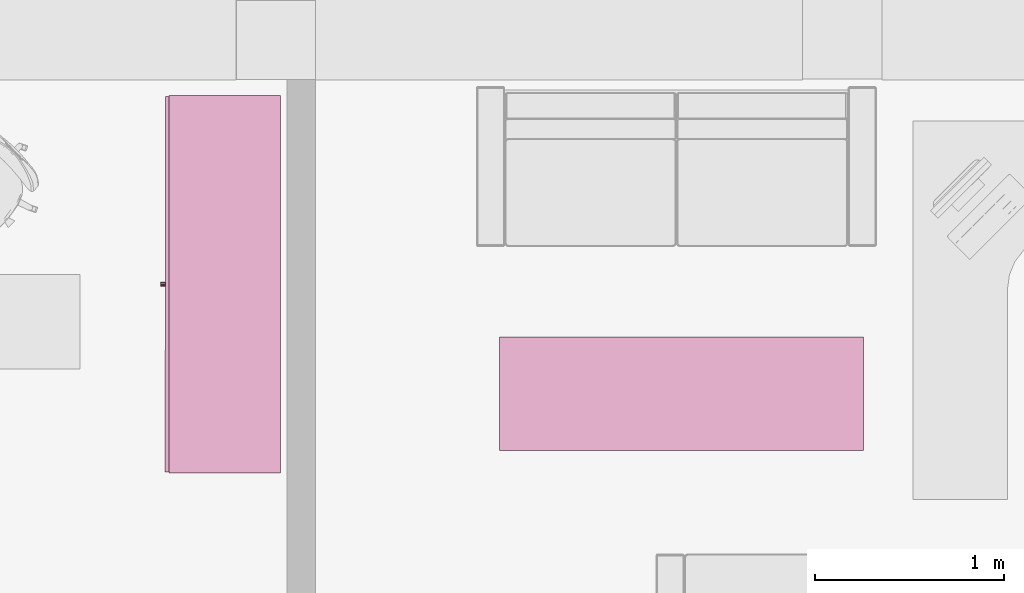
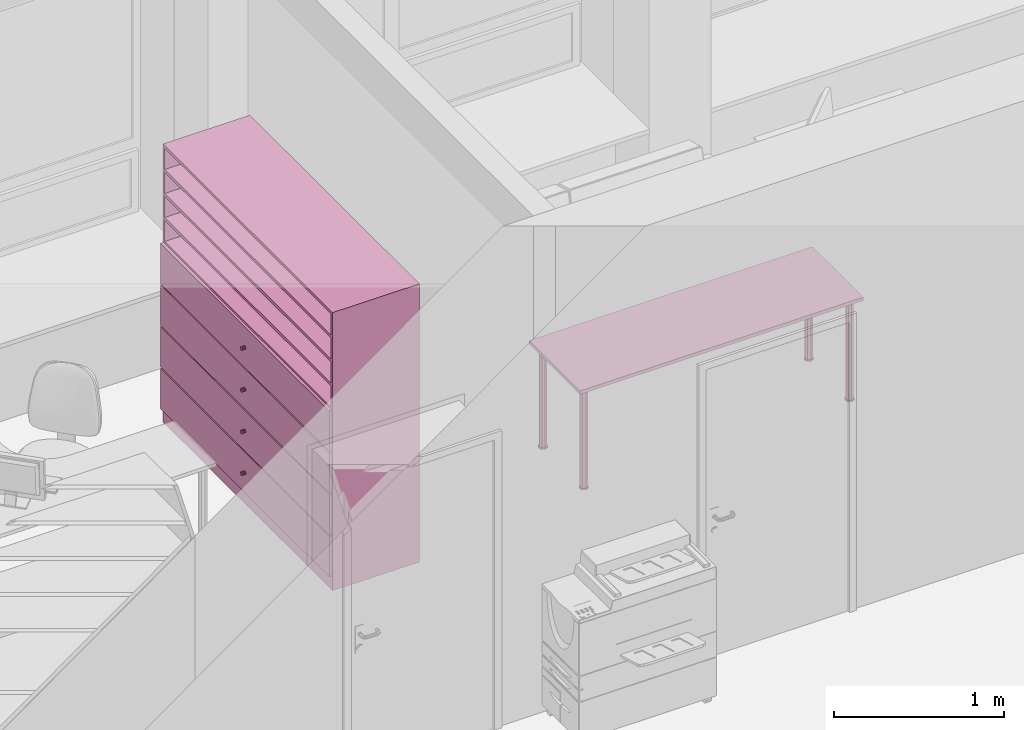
# One storey, part 177 of 194: 2 furnishings.
"""IFC2X3 building model written with IfcOpenShell, lengths in millimetres."""

import ifcopenshell
import ifcopenshell.guid

model = None  # the IFC model being written
_history = None  # IfcOwnerHistory: only IFC2X3 demands one
_inside = {}  # id of a spatial element -> (the spatial element, [elements in it])
_under = {}  # id of a project, library or spatial element -> (it, [spatial elements below it])
_declared = {}  # id of a project -> (the project, [libraries it declares])
_typed = {}  # id of a type object -> (the type object, [elements of that type])
_made_of = {}  # id of a material, layer set ... -> (it, [elements and type objects made of it])


def new_model(schema):
    """Start an empty IFC model of exactly this schema.

    Asked for "IFC4X3", IfcOpenShell would pick the latest addendum, in which some entities
    have other attributes; the version numbers below select the first issue.
    IFC2X3 requires an IfcOwnerHistory on every rooted entity: one is made here for all.
    """
    global model, _history
    if schema == "IFC4X3":
        model = ifcopenshell.file(schema_version=(4, 3, 0, 0))
    else:
        model = ifcopenshell.file(schema=schema)
    _inside.clear()
    _under.clear()
    _declared.clear()
    _typed.clear()
    _made_of.clear()
    _history = None
    if model.schema == "IFC2X3":
        org = make("IfcOrganization", Name="unknown")
        user = make(
            "IfcPersonAndOrganization",
            ThePerson=make("IfcPerson", FamilyName="unknown"),
            TheOrganization=org,
        )
        app = make(
            "IfcApplication",
            ApplicationDeveloper=org,
            Version="unknown",
            ApplicationFullName="unknown",
            ApplicationIdentifier="unknown",
        )
        _history = make(
            "IfcOwnerHistory",
            OwningUser=user,
            OwningApplication=app,
            ChangeAction="ADDED",
            CreationDate=0,
        )
    return model


def make(cls, **values):
    """One entity of the class cls with the attributes given. An attribute that is None is left unset."""
    return model.create_entity(
        cls, **{name: value for name, value in values.items() if value is not None}
    )


def entity(cls, *values):
    """Any entity or typed value of the class cls, its attributes in the order of the schema. None: left unset."""
    e = model.create_entity(cls)
    for i, value in enumerate(values):
        if value is not None:
            e[i] = value
    return e


def rooted(cls, **values):
    """An entity with a GlobalId (a new one), such as an element, a storey or a relation."""
    return make(cls, GlobalId=ifcopenshell.guid.new(), OwnerHistory=_history, **values)


def si_unit(unit_type, name, prefix=None):
    """IfcSIUnit, for example si_unit("LENGTHUNIT", "METRE", prefix="MILLI")."""
    return make("IfcSIUnit", UnitType=unit_type, Prefix=prefix, Name=name)


def converted_unit(unit_type, name, factor, base, dimensions=None, offset=None):
    """IfcConversionBasedUnit, such as the inch: factor (a typed value) times the base unit."""
    return make(
        "IfcConversionBasedUnit"
        if offset is None
        else "IfcConversionBasedUnitWithOffset",
        ConversionOffset=offset,
        Dimensions=None
        if dimensions is None
        else entity("IfcDimensionalExponents", *dimensions),
        UnitType=unit_type,
        Name=name,
        ConversionFactor=make(
            "IfcMeasureWithUnit", ValueComponent=factor, UnitComponent=base
        ),
    )


def derived_unit(unit_type, elements):
    """IfcDerivedUnit: a product of units, each with its exponent."""
    return make(
        "IfcDerivedUnit",
        Elements=[
            make("IfcDerivedUnitElement", Unit=unit, Exponent=power)
            for unit, power in elements
        ],
        UnitType=unit_type,
    )


def money_unit(currency):
    """IfcMonetaryUnit."""
    return make("IfcMonetaryUnit", Currency=currency)


def assignment(units):
    """IfcUnitAssignment: the units of a project."""
    return None if units is None else make("IfcUnitAssignment", Units=units)


def point(xyz):
    """IfcCartesianPoint."""
    return None if xyz is None else make("IfcCartesianPoint", Coordinates=xyz)


def direction(xyz):
    """IfcDirection."""
    return None if xyz is None else make("IfcDirection", DirectionRatios=xyz)


def frame(location, z_axis=None, x_axis=None):
    """IfcAxis2Placement3D, a coordinate frame: its origin and axes. An axis left out is left unset."""
    return make(
        "IfcAxis2Placement3D",
        Location=point(location),
        Axis=direction(z_axis),
        RefDirection=direction(x_axis),
    )


def origin_with_axes():
    """The frame at (0, 0, 0) with the z axis (0, 0, 1) and the x axis (1, 0, 0) written out."""
    return frame((0.0, 0.0, 0.0), z_axis=(0.0, 0.0, 1.0), x_axis=(1.0, 0.0, 0.0))


def place(relative_to, where):
    """IfcLocalPlacement: puts the frame where relative to a parent placement (None: the world)."""
    return make(
        "IfcLocalPlacement", PlacementRelTo=relative_to, RelativePlacement=where
    )


def context(
    kind, dimensions, precision=None, world=None, true_north=None, identifier=None
):
    """IfcGeometricRepresentationContext, for example the 3D "Model" context."""
    return make(
        "IfcGeometricRepresentationContext",
        ContextIdentifier=identifier,
        ContextType=kind,
        CoordinateSpaceDimension=dimensions,
        Precision=precision,
        WorldCoordinateSystem=world,
        TrueNorth=true_north,
    )


def subcontext(parent, identifier, kind, view, scale=None):
    """IfcGeometricRepresentationSubContext, for example "Body" below "Model"."""
    return make(
        "IfcGeometricRepresentationSubContext",
        ContextIdentifier=identifier,
        ContextType=kind,
        ParentContext=parent,
        TargetScale=scale,
        TargetView=view,
    )


def project(units=None, contexts=None):
    """IfcProject with its units and contexts."""
    return rooted(
        "IfcProject",
        Name="project",
        RepresentationContexts=contexts,
        UnitsInContext=assignment(units),
    )


def spatial(cls, under=None, at=None, **own):
    """A site, building, storey or space (cls), placed at a placement, below another one or the project."""
    s = rooted(cls, ObjectPlacement=at, **own)
    if under is not None:
        _under.setdefault(under.id(), (under, []))[1].append(s)
    return s


def faces_of(points, faces, orient=None, outer=None):
    """IfcFace entities. A face is a list of loops; a loop is a list of indices into points, from 0.

    orient and outer hold one flag for each loop. By default every Orientation is true, the
    first loop of a face is its IfcFaceOuterBound and the others are IfcFaceBound.
    """
    made = []
    for i, loops in enumerate(faces):
        bounds = []
        for j, loop in enumerate(loops):
            is_outer = j == 0 if outer is None else outer[i][j]
            bounds.append(
                make(
                    "IfcFaceOuterBound" if is_outer else "IfcFaceBound",
                    Bound=make("IfcPolyLoop", Polygon=[points[k] for k in loop]),
                    Orientation=True if orient is None else orient[i][j],
                )
            )
        made.append(make("IfcFace", Bounds=bounds))
    return made


def faceted_brep(points, faces, orient=None, outer=None, voids=None):
    """IfcFacetedBrep: a solid bounded by flat faces; with voids (closed shells), ...WithVoids."""
    shared = [point(p) for p in points]
    hull = make("IfcClosedShell", CfsFaces=faces_of(shared, faces, orient, outer))
    if voids is None:
        return make("IfcFacetedBrep", Outer=hull)
    return make(
        "IfcFacetedBrepWithVoids",
        Outer=hull,
        Voids=[
            make(cls, CfsFaces=faces_of(shared, fs, o, b)) for cls, fs, o, b in voids
        ],
    )


def shape(context_of_items, identifier, shape_type, items):
    """IfcShapeRepresentation: the items that make up one representation, for example the "Body"."""
    return make(
        "IfcShapeRepresentation",
        ContextOfItems=context_of_items,
        RepresentationIdentifier=identifier,
        RepresentationType=shape_type,
        Items=items,
    )


def made_of(thing, what):
    """Note that an element or type object is made of a material, layer set ...; save() writes the relation."""
    if what is not None:
        _made_of.setdefault(what.id(), (what, []))[1].append(thing)
    return thing


def type_object(cls, material=None, **own):
    """A type object (cls), such as IfcWallType, which elements share."""
    return made_of(rooted(cls, **own), material)


def element(
    cls,
    number,
    at=None,
    inside=None,
    cuts=None,
    type_object=None,
    material=None,
    context=None,
    identifier="Body",
    shape_type=None,
    held_by="IfcProductDefinitionShape",
    body=None,
    shapes=None,
    **own,
):
    """One element of the class cls, such as IfcWall. Its Tag is "e" and its number.

    at: its placement. inside: the storey or other place that contains it. cuts: it is an
    opening in that element (IfcRelVoidsElement). A single representation is given by context,
    identifier, shape_type and body (its items); several are given by shapes. held_by: the class
    of the entity that holds the representations. save() writes the other relations.
    """
    e = rooted(cls, Tag="e%d" % number, ObjectPlacement=at, **own)
    if body is not None:
        shapes = [shape(context, identifier, shape_type, body)]
    if shapes is not None:
        e.Representation = make(held_by, Representations=shapes)
    if inside is not None:
        _inside.setdefault(inside.id(), (inside, []))[1].append(e)
    if cuts is not None:
        rooted(
            "IfcRelVoidsElement", RelatingBuildingElement=cuts, RelatedOpeningElement=e
        )
    if type_object is not None:
        _typed.setdefault(type_object.id(), (type_object, []))[1].append(e)
    return made_of(e, material)


def aggregate(whole, parts):
    """IfcRelAggregates: a whole, such as a stair, and the parts it consists of."""
    return rooted("IfcRelAggregates", RelatingObject=whole, RelatedObjects=parts)


def save(model, path):
    """Write the relations noted so far, then the file.

    IfcRelAggregates (storeys below a building ...), IfcRelContainedInSpatialStructure (elements
    in a storey), IfcRelDefinesByType, IfcRelAssociatesMaterial and IfcRelDeclares: one each for
    every whole, place, type object, material and project.
    """
    for whole, parts in _under.values():
        aggregate(whole, parts)
    for where, things in _inside.values():
        rooted(
            "IfcRelContainedInSpatialStructure",
            RelatedElements=things,
            RelatingStructure=where,
        )
    for kind, things in _typed.values():
        rooted("IfcRelDefinesByType", RelatedObjects=things, RelatingType=kind)
    for what, things in _made_of.values():
        rooted("IfcRelAssociatesMaterial", RelatedObjects=things, RelatingMaterial=what)
    for by, libraries in _declared.values():
        rooted("IfcRelDeclares", RelatingContext=by, RelatedDefinitions=libraries)
    model.write(path)


model = new_model("IFC2X3")

# Units and contexts
model_context = context("Model", 3, precision=1e-05, world=origin_with_axes(), true_north=direction((0.0, 1.0)))
body_context = subcontext(model_context, "Body", "Model", "MODEL_VIEW")
ifc_project = project(units=[si_unit("LENGTHUNIT", "METRE", prefix="MILLI"), si_unit("AREAUNIT", "SQUARE_METRE"), si_unit("VOLUMEUNIT", "CUBIC_METRE"), converted_unit("PLANEANGLEUNIT", "DEGREE", entity("IfcPlaneAngleMeasure", 0.0174532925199), si_unit("PLANEANGLEUNIT", "RADIAN"), dimensions=[0, 0, 0, 0, 0, 0, 0]), si_unit("SOLIDANGLEUNIT", "STERADIAN"), money_unit("EUR"), converted_unit("TIMEUNIT", "Year", entity("IfcTimeMeasure", 31556926.0), si_unit("TIMEUNIT", "SECOND"), dimensions=[0, 0, 1, 0, 0, 0, 0]), si_unit("MASSUNIT", "GRAM", prefix="KILO"), si_unit("THERMODYNAMICTEMPERATUREUNIT", "DEGREE_CELSIUS"), si_unit("LUMINOUSINTENSITYUNIT", "LUMEN"), si_unit("ENERGYUNIT", "JOULE", prefix="MEGA"), derived_unit("THERMALCONDUCTANCEUNIT", [(si_unit("POWERUNIT", "WATT"), 1), (si_unit("LENGTHUNIT", "METRE"), -1), (si_unit("THERMODYNAMICTEMPERATUREUNIT", "KELVIN"), -1)]), derived_unit("SPECIFICHEATCAPACITYUNIT", [(si_unit("ENERGYUNIT", "JOULE"), 1), (si_unit("MASSUNIT", "GRAM", prefix="KILO"), -1), (si_unit("THERMODYNAMICTEMPERATUREUNIT", "KELVIN"), -1)]), derived_unit("MASSDENSITYUNIT", [(si_unit("MASSUNIT", "GRAM", prefix="KILO"), 1), (si_unit("VOLUMEUNIT", "CUBIC_METRE"), -1)])], contexts=[model_context])

# Site, building, storey
site_placement = place(None, origin_with_axes())
site = spatial("IfcSite", under=ifc_project, at=site_placement, Name="Site", CompositionType="ELEMENT")
building_placement = place(site_placement, origin_with_axes())
building = spatial("IfcBuilding", under=site, at=building_placement, Name="Building", CompositionType="ELEMENT")
storey_placement = place(building_placement, frame((0.0, 0.0, 3000.0), z_axis=(0.0, 0.0, 1.0), x_axis=(1.0, 0.0, 0.0)))
storey = spatial("IfcBuildingStorey", under=building, at=storey_placement, Name="2 KORRUS", CompositionType="ELEMENT", Elevation=3000.0)

# Furnishings
furnishing_element_type_1 = type_object("IfcFurnishingElementType", Name="Model Element 93")
furnishing_1_placement = place(storey_placement, frame((6366.61244023, 71002.9296491, 0.0), z_axis=(0.0, 0.0, 1.0), x_axis=(-0.00064265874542, -0.999999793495, 0.0)))
element("IfcFurnishingElement", 1, at=furnishing_1_placement, inside=storey, type_object=furnishing_element_type_1, Name="FU - 001", context=body_context, shape_type="Brep", body=[
    faceted_brep([(2000.0, 19.0, 0.0), (0.0, 19.0, 0.0), (0.0, 610.502355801, 0.0), (2000.0, 610.502355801, 0.0), (2000.0, 19.0, 100.0), (0.0, 19.0, 100.0), (0.0, 610.502355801, 100.0), (2000.0, 610.502355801, 100.0)], [[[0, 1, 2, 3]], [[1, 0, 4, 5]], [[2, 1, 5, 6]], [[3, 2, 6, 7]], [[0, 3, 7, 4]], [[5, 4, 7, 6]]]),
    faceted_brep([(19.0, 610.502355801, 119.0), (19.0, 591.502355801, 119.0), (19.0, 591.502355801, 1981.0), (19.0, 610.502355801, 1981.0), (1981.0, 610.502355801, 119.0), (1981.0, 591.502355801, 119.0), (1981.0, 591.502355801, 1981.0), (1981.0, 610.502355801, 1981.0)], [[[0, 1, 2, 3]], [[0, 4, 5, 1]], [[1, 5, 6, 2]], [[3, 2, 6, 7]], [[4, 0, 3, 7]], [[5, 4, 7, 6]]]),
    faceted_brep([(2000.0, 19.0, 100.0), (1981.0, 19.0, 100.0), (1981.0, 610.502355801, 100.0), (2000.0, 610.502355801, 100.0), (2000.0, 19.0, 2000.0), (1981.0, 19.0, 2000.0), (1981.0, 610.502355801, 2000.0), (2000.0, 610.502355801, 2000.0)], [[[0, 1, 2, 3]], [[1, 0, 4, 5]], [[2, 1, 5, 6]], [[3, 2, 6, 7]], [[0, 3, 7, 4]], [[5, 4, 7, 6]]]),
    faceted_brep([(19.0, 19.0, 100.0), (0.0, 19.0, 100.0), (0.0, 610.502355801, 100.0), (19.0, 610.502355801, 100.0), (19.0, 19.0, 2000.0), (0.0, 19.0, 2000.0), (0.0, 610.502355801, 2000.0), (19.0, 610.502355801, 2000.0)], [[[0, 1, 2, 3]], [[1, 0, 4, 5]], [[2, 1, 5, 6]], [[3, 2, 6, 7]], [[0, 3, 7, 4]], [[5, 4, 7, 6]]]),
    faceted_brep([(1981.0, 19.0, 100.0), (19.0, 19.0, 100.0), (19.0, 610.502355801, 100.0), (1981.0, 610.502355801, 100.0), (1981.0, 19.0, 119.0), (19.0, 19.0, 119.0), (19.0, 610.502355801, 119.0), (1981.0, 610.502355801, 119.0)], [[[0, 1, 2, 3]], [[1, 0, 4, 5]], [[2, 1, 5, 6]], [[3, 2, 6, 7]], [[0, 3, 7, 4]], [[5, 4, 7, 6]]]),
    faceted_brep([(1981.0, 19.0, 1981.0), (19.0, 19.0, 1981.0), (19.0, 610.502355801, 1981.0), (1981.0, 610.502355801, 1981.0), (1981.0, 19.0, 2000.0), (19.0, 19.0, 2000.0), (19.0, 610.502355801, 2000.0), (1981.0, 610.502355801, 2000.0)], [[[0, 1, 2, 3]], [[1, 0, 4, 5]], [[2, 1, 5, 6]], [[3, 2, 6, 7]], [[0, 3, 7, 4]], [[5, 4, 7, 6]]]),
    faceted_brep([(5.0, 19.0, 105.0), (1995.0, 19.0, 105.0), (1995.0, 0.0, 105.0), (5.0, 0.0, 105.0), (5.0, 19.0, 395.0), (1995.0, 19.0, 395.0), (1995.0, 0.0, 395.0), (5.0, 0.0, 395.0)], [[[0, 1, 2, 3]], [[0, 4, 5, 1]], [[1, 5, 6, 2]], [[3, 2, 6, 7]], [[4, 0, 3, 7]], [[5, 4, 7, 6]]]),
    faceted_brep([(1010.39230485, 0.0, 244.0), (1006.0, 0.0, 239.607695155), (1000.0, 0.0, 238.0), (994.0, 0.0, 239.607695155), (989.607695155, 0.0, 244.0), (988.0, 0.0, 250.0), (989.607695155, 0.0, 256.0), (994.0, 0.0, 260.392304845), (1000.0, 0.0, 262.0), (1006.0, 0.0, 260.392304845), (1010.39230485, 0.0, 256.0), (1012.0, 0.0, 250.0), (1010.39230485, -25.0, 244.0), (1006.0, -25.0, 239.607695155), (1000.0, -25.0, 238.0), (994.0, -25.0, 239.607695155), (989.607695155, -25.0, 244.0), (988.0, -25.0, 250.0), (989.607695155, -25.0, 256.0), (994.0, -25.0, 260.392304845), (1000.0, -25.0, 262.0), (1006.0, -25.0, 260.392304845), (1010.39230485, -25.0, 256.0), (1012.0, -25.0, 250.0)], [[[0, 1, 2, 3, 4, 5, 6, 7, 8, 9, 10, 11]], [[1, 0, 12, 13]], [[2, 1, 13, 14]], [[3, 2, 14, 15]], [[4, 3, 15, 16]], [[5, 4, 16, 17]], [[6, 5, 17, 18]], [[7, 6, 18, 19]], [[8, 7, 19, 20]], [[9, 8, 20, 21]], [[10, 9, 21, 22]], [[11, 10, 22, 23]], [[0, 11, 23, 12]], [[12, 23, 22, 21, 20, 19, 18, 17, 16, 15, 14, 13]]]),
    faceted_brep([(5.0, 19.0, 405.0), (1995.0, 19.0, 405.0), (1995.0, 0.0, 405.0), (5.0, 0.0, 405.0), (5.0, 19.0, 695.0), (1995.0, 19.0, 695.0), (1995.0, 0.0, 695.0), (5.0, 0.0, 695.0)], [[[0, 1, 2, 3]], [[0, 4, 5, 1]], [[1, 5, 6, 2]], [[3, 2, 6, 7]], [[4, 0, 3, 7]], [[5, 4, 7, 6]]]),
    faceted_brep([(1010.39230485, 0.0, 544.0), (1006.0, 0.0, 539.607695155), (1000.0, 0.0, 538.0), (994.0, 0.0, 539.607695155), (989.607695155, 0.0, 544.0), (988.0, 0.0, 550.0), (989.607695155, 0.0, 556.0), (994.0, 0.0, 560.392304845), (1000.0, 0.0, 562.0), (1006.0, 0.0, 560.392304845), (1010.39230485, 0.0, 556.0), (1012.0, 0.0, 550.0), (1010.39230485, -25.0, 544.0), (1006.0, -25.0, 539.607695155), (1000.0, -25.0, 538.0), (994.0, -25.0, 539.607695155), (989.607695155, -25.0, 544.0), (988.0, -25.0, 550.0), (989.607695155, -25.0, 556.0), (994.0, -25.0, 560.392304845), (1000.0, -25.0, 562.0), (1006.0, -25.0, 560.392304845), (1010.39230485, -25.0, 556.0), (1012.0, -25.0, 550.0)], [[[0, 1, 2, 3, 4, 5, 6, 7, 8, 9, 10, 11]], [[1, 0, 12, 13]], [[2, 1, 13, 14]], [[3, 2, 14, 15]], [[4, 3, 15, 16]], [[5, 4, 16, 17]], [[6, 5, 17, 18]], [[7, 6, 18, 19]], [[8, 7, 19, 20]], [[9, 8, 20, 21]], [[10, 9, 21, 22]], [[11, 10, 22, 23]], [[0, 11, 23, 12]], [[12, 23, 22, 21, 20, 19, 18, 17, 16, 15, 14, 13]]]),
    faceted_brep([(5.0, 19.0, 705.0), (1995.0, 19.0, 705.0), (1995.0, 0.0, 705.0), (5.0, 0.0, 705.0), (5.0, 19.0, 995.0), (1995.0, 19.0, 995.0), (1995.0, 0.0, 995.0), (5.0, 0.0, 995.0)], [[[0, 1, 2, 3]], [[0, 4, 5, 1]], [[1, 5, 6, 2]], [[3, 2, 6, 7]], [[4, 0, 3, 7]], [[5, 4, 7, 6]]]),
    faceted_brep([(1010.39230485, 0.0, 844.0), (1006.0, 0.0, 839.607695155), (1000.0, 0.0, 838.0), (994.0, 0.0, 839.607695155), (989.607695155, 0.0, 844.0), (988.0, 0.0, 850.0), (989.607695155, 0.0, 856.0), (994.0, 0.0, 860.392304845), (1000.0, 0.0, 862.0), (1006.0, 0.0, 860.392304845), (1010.39230485, 0.0, 856.0), (1012.0, 0.0, 850.0), (1010.39230485, -25.0, 844.0), (1006.0, -25.0, 839.607695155), (1000.0, -25.0, 838.0), (994.0, -25.0, 839.607695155), (989.607695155, -25.0, 844.0), (988.0, -25.0, 850.0), (989.607695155, -25.0, 856.0), (994.0, -25.0, 860.392304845), (1000.0, -25.0, 862.0), (1006.0, -25.0, 860.392304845), (1010.39230485, -25.0, 856.0), (1012.0, -25.0, 850.0)], [[[0, 1, 2, 3, 4, 5, 6, 7, 8, 9, 10, 11]], [[1, 0, 12, 13]], [[2, 1, 13, 14]], [[3, 2, 14, 15]], [[4, 3, 15, 16]], [[5, 4, 16, 17]], [[6, 5, 17, 18]], [[7, 6, 18, 19]], [[8, 7, 19, 20]], [[9, 8, 20, 21]], [[10, 9, 21, 22]], [[11, 10, 22, 23]], [[0, 11, 23, 12]], [[12, 23, 22, 21, 20, 19, 18, 17, 16, 15, 14, 13]]]),
    faceted_brep([(5.0, 19.0, 1005.0), (1995.0, 19.0, 1005.0), (1995.0, 0.0, 1005.0), (5.0, 0.0, 1005.0), (5.0, 19.0, 1295.0), (1995.0, 19.0, 1295.0), (1995.0, 0.0, 1295.0), (5.0, 0.0, 1295.0)], [[[0, 1, 2, 3]], [[0, 4, 5, 1]], [[1, 5, 6, 2]], [[3, 2, 6, 7]], [[4, 0, 3, 7]], [[5, 4, 7, 6]]]),
    faceted_brep([(1010.39230485, 0.0, 1144.0), (1006.0, 0.0, 1139.60769515), (1000.0, 0.0, 1138.0), (994.0, 0.0, 1139.60769515), (989.607695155, 0.0, 1144.0), (988.0, 0.0, 1150.0), (989.607695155, 0.0, 1156.0), (994.0, 0.0, 1160.39230485), (1000.0, 0.0, 1162.0), (1006.0, 0.0, 1160.39230485), (1010.39230485, 0.0, 1156.0), (1012.0, 0.0, 1150.0), (1010.39230485, -25.0, 1144.0), (1006.0, -25.0, 1139.60769515), (1000.0, -25.0, 1138.0), (994.0, -25.0, 1139.60769515), (989.607695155, -25.0, 1144.0), (988.0, -25.0, 1150.0), (989.607695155, -25.0, 1156.0), (994.0, -25.0, 1160.39230485), (1000.0, -25.0, 1162.0), (1006.0, -25.0, 1160.39230485), (1010.39230485, -25.0, 1156.0), (1012.0, -25.0, 1150.0)], [[[0, 1, 2, 3, 4, 5, 6, 7, 8, 9, 10, 11]], [[1, 0, 12, 13]], [[2, 1, 13, 14]], [[3, 2, 14, 15]], [[4, 3, 15, 16]], [[5, 4, 16, 17]], [[6, 5, 17, 18]], [[7, 6, 18, 19]], [[8, 7, 19, 20]], [[9, 8, 20, 21]], [[10, 9, 21, 22]], [[11, 10, 22, 23]], [[0, 11, 23, 12]], [[12, 23, 22, 21, 20, 19, 18, 17, 16, 15, 14, 13]]]),
    faceted_brep([(19.0, 19.0, 390.5), (1981.0, 19.0, 390.5), (1981.0, 19.0, 409.5), (19.0, 19.0, 409.5), (19.0, 591.502355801, 390.5), (1981.0, 591.502355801, 390.5), (1981.0, 591.502355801, 409.5), (19.0, 591.502355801, 409.5)], [[[0, 1, 2, 3]], [[0, 4, 5, 1]], [[1, 5, 6, 2]], [[3, 2, 6, 7]], [[4, 0, 3, 7]], [[5, 4, 7, 6]]]),
    faceted_brep([(19.0, 19.0, 690.5), (1981.0, 19.0, 690.5), (1981.0, 19.0, 709.5), (19.0, 19.0, 709.5), (19.0, 591.502355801, 690.5), (1981.0, 591.502355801, 690.5), (1981.0, 591.502355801, 709.5), (19.0, 591.502355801, 709.5)], [[[0, 1, 2, 3]], [[0, 4, 5, 1]], [[1, 5, 6, 2]], [[3, 2, 6, 7]], [[4, 0, 3, 7]], [[5, 4, 7, 6]]]),
    faceted_brep([(19.0, 19.0, 990.5), (1981.0, 19.0, 990.5), (1981.0, 19.0, 1009.5), (19.0, 19.0, 1009.5), (19.0, 591.502355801, 990.5), (1981.0, 591.502355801, 990.5), (1981.0, 591.502355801, 1009.5), (19.0, 591.502355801, 1009.5)], [[[0, 1, 2, 3]], [[0, 4, 5, 1]], [[1, 5, 6, 2]], [[3, 2, 6, 7]], [[4, 0, 3, 7]], [[5, 4, 7, 6]]]),
    faceted_brep([(19.0, 19.0, 1290.5), (1981.0, 19.0, 1290.5), (1981.0, 19.0, 1309.5), (19.0, 19.0, 1309.5), (19.0, 591.502355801, 1290.5), (1981.0, 591.502355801, 1290.5), (1981.0, 591.502355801, 1309.5), (19.0, 591.502355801, 1309.5)], [[[0, 1, 2, 3]], [[0, 4, 5, 1]], [[1, 5, 6, 2]], [[3, 2, 6, 7]], [[4, 0, 3, 7]], [[5, 4, 7, 6]]]),
    faceted_brep([(1981.0, 19.0, 1463.125), (19.0, 19.0, 1463.125), (19.0, 591.502355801, 1463.125), (1981.0, 591.502355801, 1463.125), (1981.0, 19.0, 1482.125), (19.0, 19.0, 1482.125), (19.0, 591.502355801, 1482.125), (1981.0, 591.502355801, 1482.125)], [[[0, 1, 2, 3]], [[1, 0, 4, 5]], [[2, 1, 5, 6]], [[3, 2, 6, 7]], [[0, 3, 7, 4]], [[5, 4, 7, 6]]]),
    faceted_brep([(1981.0, 19.0, 1635.75), (19.0, 19.0, 1635.75), (19.0, 591.502355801, 1635.75), (1981.0, 591.502355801, 1635.75), (1981.0, 19.0, 1654.75), (19.0, 19.0, 1654.75), (19.0, 591.502355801, 1654.75), (1981.0, 591.502355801, 1654.75)], [[[0, 1, 2, 3]], [[1, 0, 4, 5]], [[2, 1, 5, 6]], [[3, 2, 6, 7]], [[0, 3, 7, 4]], [[5, 4, 7, 6]]]),
    faceted_brep([(1981.0, 19.0, 1808.375), (19.0, 19.0, 1808.375), (19.0, 591.502355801, 1808.375), (1981.0, 591.502355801, 1808.375), (1981.0, 19.0, 1827.375), (19.0, 19.0, 1827.375), (19.0, 591.502355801, 1827.375), (1981.0, 591.502355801, 1827.375)], [[[0, 1, 2, 3]], [[1, 0, 4, 5]], [[2, 1, 5, 6]], [[3, 2, 6, 7]], [[0, 3, 7, 4]], [[5, 4, 7, 6]]]),
])
furnishing_element_type_2 = type_object("IfcFurnishingElementType", Name="Model Element 85")
furnishing_2_placement = place(storey_placement, frame((8136.27001489, 69122.6894232, 0.0), z_axis=(0.0, 0.0, 1.0), x_axis=(1.0, 0.0, 0.0)))
element("IfcFurnishingElement", 2, at=furnishing_2_placement, inside=storey, type_object=furnishing_element_type_2, Name="FU - 007", context=body_context, shape_type="Brep", body=[
    faceted_brep([(0.0, 0.0, 725.0), (1927.94516769, 0.0, 725.0), (1927.94516769, 0.0, 750.0), (0.0, 0.0, 750.0), (0.0, 600.0, 725.0), (1927.94516769, 600.0, 725.0), (1927.94516769, 600.0, 750.0), (0.0, 600.0, 750.0)], [[[0, 1, 2, 3]], [[0, 4, 5, 1]], [[1, 5, 6, 2]], [[3, 2, 6, 7]], [[4, 0, 3, 7]], [[5, 4, 7, 6]]]),
    faceted_brep([(77.6776695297, 77.6776695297, 10.0), (85.0, 60.0, 10.0), (77.6776695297, 42.3223304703, 10.0), (60.0, 35.0, 10.0), (42.3223304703, 42.3223304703, 10.0), (35.0, 60.0, 10.0), (42.3223304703, 77.6776695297, 10.0), (60.0, 85.0, 10.0), (77.6776695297, 77.6776695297, 725.0), (85.0, 60.0, 725.0), (77.6776695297, 42.3223304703, 725.0), (60.0, 35.0, 725.0), (42.3223304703, 42.3223304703, 725.0), (35.0, 60.0, 725.0), (42.3223304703, 77.6776695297, 725.0), (60.0, 85.0, 725.0)], [[[0, 1, 2, 3, 4, 5, 6, 7]], [[1, 0, 8, 9]], [[2, 1, 9, 10]], [[3, 2, 10, 11]], [[4, 3, 11, 12]], [[5, 4, 12, 13]], [[6, 5, 13, 14]], [[7, 6, 14, 15]], [[0, 7, 15, 8]], [[8, 15, 14, 13, 12, 11, 10, 9]]]),
    faceted_brep([(81.2132034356, 81.2132034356, 0.0), (90.0, 60.0, 0.0), (81.2132034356, 38.7867965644, 0.0), (60.0, 30.0, 0.0), (38.7867965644, 38.7867965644, 0.0), (30.0, 60.0, 0.0), (38.7867965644, 81.2132034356, 0.0), (60.0, 90.0, 0.0), (81.2132034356, 81.2132034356, 10.0), (90.0, 60.0, 10.0), (81.2132034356, 38.7867965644, 10.0), (60.0, 30.0, 10.0), (38.7867965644, 38.7867965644, 10.0), (30.0, 60.0, 10.0), (38.7867965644, 81.2132034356, 10.0), (60.0, 90.0, 10.0)], [[[0, 1, 2, 3, 4, 5, 6, 7]], [[1, 0, 8, 9]], [[2, 1, 9, 10]], [[3, 2, 10, 11]], [[4, 3, 11, 12]], [[5, 4, 12, 13]], [[6, 5, 13, 14]], [[7, 6, 14, 15]], [[0, 7, 15, 8]], [[8, 15, 14, 13, 12, 11, 10, 9]]]),
    faceted_brep([(77.6776695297, 557.67766953, 10.0), (85.0, 540.0, 10.0), (77.6776695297, 522.32233047, 10.0), (60.0, 515.0, 10.0), (42.3223304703, 522.32233047, 10.0), (35.0, 540.0, 10.0), (42.3223304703, 557.67766953, 10.0), (60.0, 565.0, 10.0), (77.6776695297, 557.67766953, 725.0), (85.0, 540.0, 725.0), (77.6776695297, 522.32233047, 725.0), (60.0, 515.0, 725.0), (42.3223304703, 522.32233047, 725.0), (35.0, 540.0, 725.0), (42.3223304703, 557.67766953, 725.0), (60.0, 565.0, 725.0)], [[[0, 1, 2, 3, 4, 5, 6, 7]], [[1, 0, 8, 9]], [[2, 1, 9, 10]], [[3, 2, 10, 11]], [[4, 3, 11, 12]], [[5, 4, 12, 13]], [[6, 5, 13, 14]], [[7, 6, 14, 15]], [[0, 7, 15, 8]], [[8, 15, 14, 13, 12, 11, 10, 9]]]),
    faceted_brep([(81.2132034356, 561.213203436, 0.0), (90.0, 540.0, 0.0), (81.2132034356, 518.786796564, 0.0), (60.0, 510.0, 0.0), (38.7867965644, 518.786796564, 0.0), (30.0, 540.0, 0.0), (38.7867965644, 561.213203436, 0.0), (60.0, 570.0, 0.0), (81.2132034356, 561.213203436, 10.0), (90.0, 540.0, 10.0), (81.2132034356, 518.786796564, 10.0), (60.0, 510.0, 10.0), (38.7867965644, 518.786796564, 10.0), (30.0, 540.0, 10.0), (38.7867965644, 561.213203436, 10.0), (60.0, 570.0, 10.0)], [[[0, 1, 2, 3, 4, 5, 6, 7]], [[1, 0, 8, 9]], [[2, 1, 9, 10]], [[3, 2, 10, 11]], [[4, 3, 11, 12]], [[5, 4, 12, 13]], [[6, 5, 13, 14]], [[7, 6, 14, 15]], [[0, 7, 15, 8]], [[8, 15, 14, 13, 12, 11, 10, 9]]]),
    faceted_brep([(1885.62283722, 77.6776695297, 10.0), (1892.94516769, 60.0, 10.0), (1885.62283722, 42.3223304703, 10.0), (1867.94516769, 35.0, 10.0), (1850.26749816, 42.3223304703, 10.0), (1842.94516769, 60.0, 10.0), (1850.26749816, 77.6776695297, 10.0), (1867.94516769, 85.0, 10.0), (1885.62283722, 77.6776695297, 725.0), (1892.94516769, 60.0, 725.0), (1885.62283722, 42.3223304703, 725.0), (1867.94516769, 35.0, 725.0), (1850.26749816, 42.3223304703, 725.0), (1842.94516769, 60.0, 725.0), (1850.26749816, 77.6776695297, 725.0), (1867.94516769, 85.0, 725.0)], [[[0, 1, 2, 3, 4, 5, 6, 7]], [[1, 0, 8, 9]], [[2, 1, 9, 10]], [[3, 2, 10, 11]], [[4, 3, 11, 12]], [[5, 4, 12, 13]], [[6, 5, 13, 14]], [[7, 6, 14, 15]], [[0, 7, 15, 8]], [[8, 15, 14, 13, 12, 11, 10, 9]]]),
    faceted_brep([(1889.15837113, 81.2132034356, 0.0), (1897.94516769, 60.0, 0.0), (1889.15837113, 38.7867965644, 0.0), (1867.94516769, 30.0, 0.0), (1846.73196426, 38.7867965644, 0.0), (1837.94516769, 60.0, 0.0), (1846.73196426, 81.2132034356, 0.0), (1867.94516769, 90.0, 0.0), (1889.15837113, 81.2132034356, 10.0), (1897.94516769, 60.0, 10.0), (1889.15837113, 38.7867965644, 10.0), (1867.94516769, 30.0, 10.0), (1846.73196426, 38.7867965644, 10.0), (1837.94516769, 60.0, 10.0), (1846.73196426, 81.2132034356, 10.0), (1867.94516769, 90.0, 10.0)], [[[0, 1, 2, 3, 4, 5, 6, 7]], [[1, 0, 8, 9]], [[2, 1, 9, 10]], [[3, 2, 10, 11]], [[4, 3, 11, 12]], [[5, 4, 12, 13]], [[6, 5, 13, 14]], [[7, 6, 14, 15]], [[0, 7, 15, 8]], [[8, 15, 14, 13, 12, 11, 10, 9]]]),
    faceted_brep([(1885.62283722, 557.67766953, 10.0), (1892.94516769, 540.0, 10.0), (1885.62283722, 522.32233047, 10.0), (1867.94516769, 515.0, 10.0), (1850.26749816, 522.32233047, 10.0), (1842.94516769, 540.0, 10.0), (1850.26749816, 557.67766953, 10.0), (1867.94516769, 565.0, 10.0), (1885.62283722, 557.67766953, 725.0), (1892.94516769, 540.0, 725.0), (1885.62283722, 522.32233047, 725.0), (1867.94516769, 515.0, 725.0), (1850.26749816, 522.32233047, 725.0), (1842.94516769, 540.0, 725.0), (1850.26749816, 557.67766953, 725.0), (1867.94516769, 565.0, 725.0)], [[[0, 1, 2, 3, 4, 5, 6, 7]], [[1, 0, 8, 9]], [[2, 1, 9, 10]], [[3, 2, 10, 11]], [[4, 3, 11, 12]], [[5, 4, 12, 13]], [[6, 5, 13, 14]], [[7, 6, 14, 15]], [[0, 7, 15, 8]], [[8, 15, 14, 13, 12, 11, 10, 9]]]),
    faceted_brep([(1889.15837113, 561.213203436, 0.0), (1897.94516769, 540.0, 0.0), (1889.15837113, 518.786796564, 0.0), (1867.94516769, 510.0, 0.0), (1846.73196426, 518.786796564, 0.0), (1837.94516769, 540.0, 0.0), (1846.73196426, 561.213203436, 0.0), (1867.94516769, 570.0, 0.0), (1889.15837113, 561.213203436, 10.0), (1897.94516769, 540.0, 10.0), (1889.15837113, 518.786796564, 10.0), (1867.94516769, 510.0, 10.0), (1846.73196426, 518.786796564, 10.0), (1837.94516769, 540.0, 10.0), (1846.73196426, 561.213203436, 10.0), (1867.94516769, 570.0, 10.0)], [[[0, 1, 2, 3, 4, 5, 6, 7]], [[1, 0, 8, 9]], [[2, 1, 9, 10]], [[3, 2, 10, 11]], [[4, 3, 11, 12]], [[5, 4, 12, 13]], [[6, 5, 13, 14]], [[7, 6, 14, 15]], [[0, 7, 15, 8]], [[8, 15, 14, 13, 12, 11, 10, 9]]]),
])

save(model, "model.ifc")
